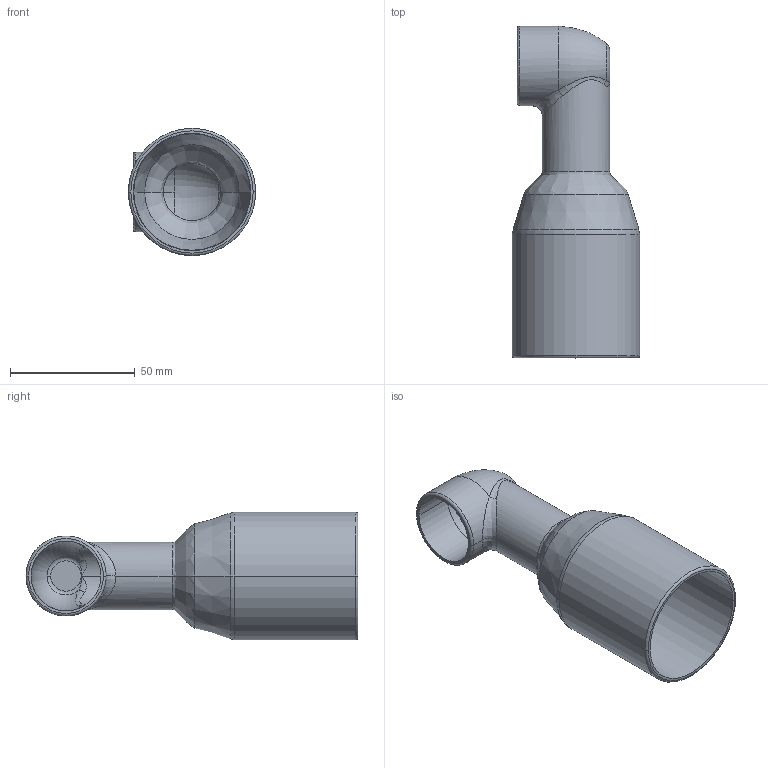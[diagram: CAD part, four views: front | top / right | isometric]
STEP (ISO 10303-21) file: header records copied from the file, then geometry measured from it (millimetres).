
FILE_DESCRIPTION((''),'2;1');
FILE_NAME('6155730640','2008-07-21T',('sdanet'),(''),'PRO/ENGINEER BY PARAMETRIC TECHNOLOGY CORPORATION, 2008010','PRO/ENGINEER BY PARAMETRIC TECHNOLOGY CORPORATION, 2008010','');
FILE_SCHEMA(('AUTOMOTIVE_DESIGN_CC2 { 1 2 10303 214 -1 1 5 2 }'));
Length unit declared in the file: millimetre
Products named in the file (1): 6155730640
Bounding box: 51 x 133 x 51 mm (x, y, z)
Volume: 33031 mm3; surface area: 33459.7 mm2
Topology: 1 solids, 1 shells, 50 faces, 104 edges, 56 vertices
Faces by surface type: cylinder 12, bspline 12, torus 12, revolution 6, cone 4, plane 4
Entity records: 2424 total; most frequent: CARTESIAN_POINT 1065, ORIENTED_EDGE 208, DIRECTION 202, PRESENTATION_STYLE_ASSIGNMENT 105, STYLED_ITEM 105, CURVE_STYLE 104, EDGE_CURVE 104, AXIS2_PLACEMENT_3D 90
